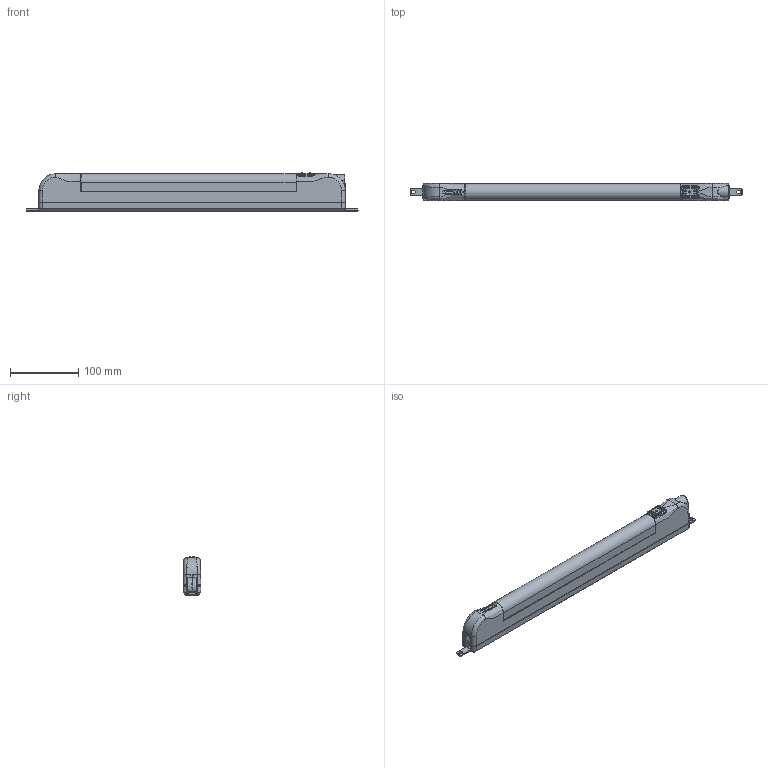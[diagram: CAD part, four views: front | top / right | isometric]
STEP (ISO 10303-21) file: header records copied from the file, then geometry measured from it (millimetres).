
FILE_DESCRIPTION((''),'2;1');
FILE_NAME('ZUSBAU_KUNDEN_SW0004','2013-01-19T',('Administrator'),(''),'PRO/ENGINEER BY PARAMETRIC TECHNOLOGY CORPORATION, 2009460','PRO/ENGINEER BY PARAMETRIC TECHNOLOGY CORPORATION, 2009460','');
FILE_SCHEMA(('AUTOMOTIVE_DESIGN_CC2 { 1 2 10303 214 -1 1 5 2 }'));
Length unit declared in the file: millimetre
Products named in the file (1): ZUSBAU_KUNDEN_SW0004
Bounding box: 485 x 26.17 x 55.81 mm (x, y, z)
Volume: 149210.9 mm3; surface area: 179106.6 mm2
Topology: 3 solids, 3 shells, 2313 faces, 6487 edges, 4180 vertices
Faces by surface type: plane 1653, cylinder 254, cone 236, bspline 112, sphere 32, torus 26
Entity records: 100054 total; most frequent: CARTESIAN_POINT 26760, ORIENTED_EDGE 12926, DIRECTION 10617, EDGE_CURVE 6463, VECTOR 4649, LINE 4649, VERTEX_POINT 4180, AXIS2_PLACEMENT_3D 2984
